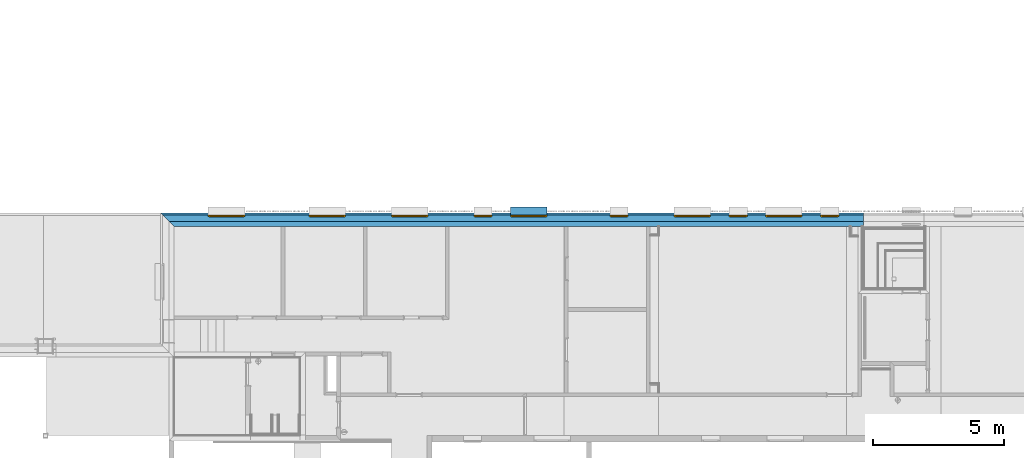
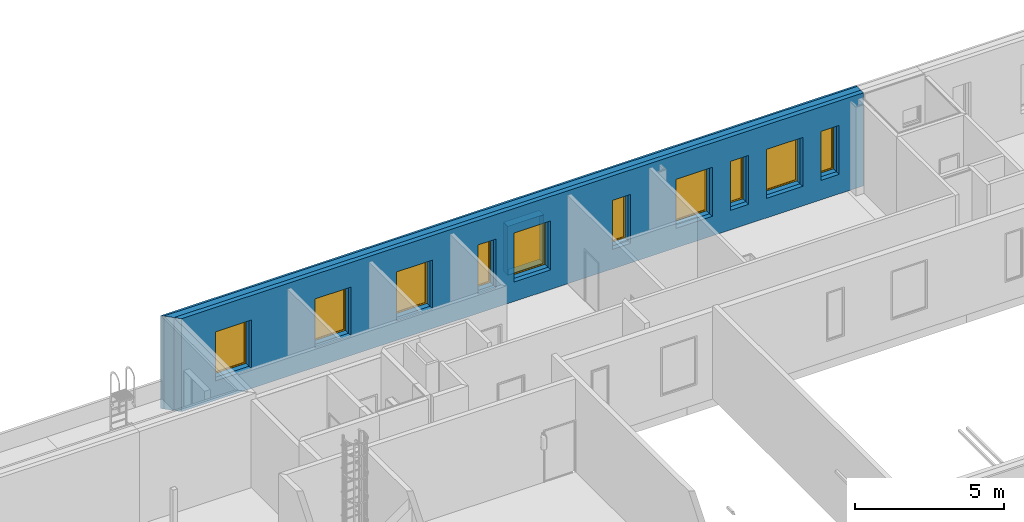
# One storey, part 23 of 100: 10 windows, 3 building element parts, 1 discrete accessory, 10 openings, 1 element without a shape of its own.
"""IFC2X3 building model written with IfcOpenShell, lengths in millimetres."""

from ifc_helpers import new_model, entity, si_unit, converted_unit, derived_unit, money_unit, direction, frame, origin_with_axes, origin_2d_with_axis, place, context, subcontext, project, spatial, polyline, rectangle, outline, extrude, open_shell, faceted_brep, surface_model, source, transform, mapped, material, type_object, element, fill, aggregate, save


model = new_model("IFC2X3")

# Units and contexts
model_context = context("Model", 3, precision=0.01, world=origin_with_axes(), true_north=direction((0.0, 1.0)))
body_context = subcontext(model_context, "Body", "Model", "MODEL_VIEW")
ifc_project = project(units=[si_unit("LENGTHUNIT", "METRE", prefix="MILLI"), si_unit("AREAUNIT", "SQUARE_METRE"), si_unit("VOLUMEUNIT", "CUBIC_METRE"), converted_unit("PLANEANGLEUNIT", "DEGREE", entity("IfcPlaneAngleMeasure", 0.0174532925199), si_unit("PLANEANGLEUNIT", "RADIAN"), dimensions=[0, 0, 0, 0, 0, 0, 0]), si_unit("SOLIDANGLEUNIT", "STERADIAN"), money_unit("EUR"), converted_unit("TIMEUNIT", "Year", entity("IfcTimeMeasure", 31556926.0), si_unit("TIMEUNIT", "SECOND"), dimensions=[0, 0, 1, 0, 0, 0, 0]), si_unit("MASSUNIT", "GRAM", prefix="KILO"), si_unit("THERMODYNAMICTEMPERATUREUNIT", "DEGREE_CELSIUS"), si_unit("LUMINOUSINTENSITYUNIT", "LUMEN"), si_unit("ENERGYUNIT", "JOULE", prefix="MEGA"), derived_unit("THERMALCONDUCTANCEUNIT", [(si_unit("POWERUNIT", "WATT"), 1), (si_unit("LENGTHUNIT", "METRE"), -1), (si_unit("THERMODYNAMICTEMPERATUREUNIT", "KELVIN"), -1)]), derived_unit("SPECIFICHEATCAPACITYUNIT", [(si_unit("ENERGYUNIT", "JOULE"), 1), (si_unit("MASSUNIT", "GRAM", prefix="KILO"), -1), (si_unit("THERMODYNAMICTEMPERATUREUNIT", "KELVIN"), -1)]), derived_unit("MASSDENSITYUNIT", [(si_unit("MASSUNIT", "GRAM", prefix="KILO"), 1), (si_unit("VOLUMEUNIT", "CUBIC_METRE"), -1)])], contexts=[model_context])

# Site, building, storey
site_placement = place(None, origin_with_axes())
site = spatial("IfcSite", under=ifc_project, at=site_placement, Name="Politse- ja Piirivalveameti ning Päästeameti ühishoone", CompositionType="ELEMENT")
building_placement = place(site_placement, origin_with_axes())
building = spatial("IfcBuilding", under=site, at=building_placement, Name="Politse- ja Piirivalveameti ning Päästeameti ühishoone", CompositionType="ELEMENT")
storey_placement = place(building_placement, frame((0.0, 0.0, 3800.0), z_axis=(0.0, 0.0, 1.0), x_axis=(1.0, 0.0, 0.0)))
storey = spatial("IfcBuildingStorey", under=building, at=storey_placement, Name="Teine korrus", CompositionType="ELEMENT", Elevation=3800.0)

# Window
window_style_1 = type_object("IfcWindowStyle", Name="Window 23", ConstructionType="NOTDEFINED", OperationType="SINGLE_PANEL", ParameterTakesPrecedence=False, Sizeable=False)
shared_shape_1 = source(origin_with_axes(), body_context, "Body", "SurfaceModel", [
    faceted_brep([(-675.0, 0.0, 1950.0), (-700.0, 0.0, 1950.0), (-700.0, -50.0, 1950.0), (-650.0, -50.0, 1950.0), (-650.0, -25.0, 1950.0), (-675.0, -25.0, 1950.0), (-675.0, 0.0, 50.0), (-700.0, 0.0, 50.0), (-700.0, -50.0, 50.0), (-650.0, -50.0, 50.0), (-650.0, -25.0, 50.0), (-675.0, -25.0, 50.0)], [[[0, 1, 2, 3, 4, 5]], [[6, 7, 1, 0]], [[1, 7, 8, 2]], [[2, 8, 9, 3]], [[4, 3, 9, 10]], [[10, 11, 5, 4]], [[5, 11, 6, 0]], [[11, 10, 9, 8, 7, 6]]]),
    faceted_brep([(650.0, -25.0, 1950.0), (650.0, -50.0, 1950.0), (700.0, -50.0, 1950.0), (700.0, 0.0, 1950.0), (675.0, 0.0, 1950.0), (675.0, -25.0, 1950.0), (650.0, -25.0, 50.0), (650.0, -50.0, 50.0), (700.0, -50.0, 50.0), (700.0, 0.0, 50.0), (675.0, 0.0, 50.0), (675.0, -25.0, 50.0)], [[[0, 1, 2, 3, 4, 5]], [[6, 7, 1, 0]], [[8, 2, 1, 7]], [[9, 3, 2, 8]], [[4, 3, 9, 10]], [[10, 11, 5, 4]], [[5, 11, 6, 0]], [[11, 10, 9, 8, 7, 6]]]),
    faceted_brep([(650.0, -25.0, 50.0), (650.0, -50.0, 50.0), (700.0, -50.0, 50.0), (700.0, 0.0, 50.0), (675.0, 0.0, 50.0), (675.0, -25.0, 50.0), (-650.0, -25.0, 50.0), (-650.0, -50.0, 50.0), (-700.0, -50.0, 50.0), (-700.0, -50.0, 0.0), (700.0, -50.0, 0.0), (700.0, 0.0, 0.0), (-675.0, 0.0, 25.0), (675.0, 0.0, 25.0), (-700.0, 0.0, 0.0), (-700.0, 0.0, 50.0), (-675.0, 0.0, 50.0), (675.0, -25.0, 25.0), (-675.0, -25.0, 25.0), (-675.0, -25.0, 50.0)], [[[0, 1, 2, 3, 4, 5]], [[6, 7, 1, 0]], [[8, 9, 10, 2, 1, 7]], [[11, 3, 2, 10]], [[12, 13, 4, 3, 11, 14, 15, 16]], [[13, 17, 5, 4]], [[5, 17, 18, 19, 6, 0]], [[19, 16, 15, 8, 7, 6]], [[15, 14, 9, 8]], [[14, 11, 10, 9]], [[12, 18, 17, 13]], [[19, 18, 12, 16]]]),
    faceted_brep([(-675.0, 0.0, 1950.0), (-700.0, 0.0, 1950.0), (-700.0, 0.0, 2000.0), (700.0, 0.0, 2000.0), (700.0, 0.0, 1950.0), (675.0, 0.0, 1950.0), (675.0, 0.0, 1975.0), (-675.0, 0.0, 1975.0), (-675.0, -25.0, 1950.0), (-650.0, -25.0, 1950.0), (-650.0, -50.0, 1950.0), (-700.0, -50.0, 1950.0), (-700.0, -50.0, 2000.0), (700.0, -50.0, 2000.0), (700.0, -50.0, 1950.0), (675.0, -25.0, 1950.0), (650.0, -50.0, 1950.0), (650.0, -25.0, 1950.0), (675.0, -25.0, 1975.0), (-675.0, -25.0, 1975.0)], [[[0, 1, 2, 3, 4, 5, 6, 7]], [[8, 9, 10, 11, 1, 0]], [[2, 1, 11, 12]], [[3, 2, 12, 13]], [[4, 3, 13, 14]], [[15, 5, 4, 14, 16, 17]], [[5, 15, 18, 6]], [[6, 18, 19, 7]], [[7, 19, 8, 0]], [[17, 9, 8, 19, 18, 15]], [[17, 16, 10, 9]], [[14, 13, 12, 11, 10, 16]]]),
    faceted_brep([(-625.0, -25.0, 1925.0), (-625.0, 25.0, 1925.0), (-675.0, 25.0, 1925.0), (-675.0, -25.0, 1925.0), (-625.0, -25.0, 75.0), (-625.0, 25.0, 75.0), (-675.0, 25.0, 75.0), (-675.0, -25.0, 75.0)], [[[0, 1, 2, 3]], [[4, 5, 1, 0]], [[1, 5, 6, 2]], [[3, 2, 6, 7]], [[0, 3, 7, 4]], [[7, 6, 5, 4]]]),
    faceted_brep([(625.0, -25.0, 75.0), (625.0, 25.0, 75.0), (675.0, 25.0, 75.0), (675.0, -25.0, 75.0), (625.0, -25.0, 1925.0), (625.0, 25.0, 1925.0), (675.0, 25.0, 1925.0), (675.0, -25.0, 1925.0)], [[[0, 1, 2, 3]], [[4, 5, 1, 0]], [[1, 5, 6, 2]], [[3, 2, 6, 7]], [[0, 3, 7, 4]], [[7, 6, 5, 4]]]),
    faceted_brep([(675.0, -25.0, 25.0), (675.0, 25.0, 25.0), (675.0, 25.0, 75.0), (675.0, -25.0, 75.0), (-675.0, -25.0, 25.0), (-675.0, 25.0, 25.0), (-675.0, 25.0, 75.0), (-625.0, 25.0, 75.0), (625.0, 25.0, 75.0), (625.0, -25.0, 75.0), (-625.0, -25.0, 75.0), (-675.0, -25.0, 75.0)], [[[0, 1, 2, 3]], [[4, 5, 1, 0]], [[1, 5, 6, 7, 8, 2]], [[3, 2, 8, 9]], [[0, 3, 9, 10, 11, 4]], [[11, 6, 5, 4]], [[10, 7, 6, 11]], [[9, 8, 7, 10]]]),
    faceted_brep([(-675.0, -25.0, 1975.0), (-675.0, 25.0, 1975.0), (-675.0, 25.0, 1925.0), (-675.0, -25.0, 1925.0), (675.0, -25.0, 1975.0), (675.0, 25.0, 1975.0), (675.0, 25.0, 1925.0), (625.0, 25.0, 1925.0), (-625.0, 25.0, 1925.0), (-625.0, -25.0, 1925.0), (625.0, -25.0, 1925.0), (675.0, -25.0, 1925.0)], [[[0, 1, 2, 3]], [[4, 5, 1, 0]], [[1, 5, 6, 7, 8, 2]], [[3, 2, 8, 9]], [[0, 3, 9, 10, 11, 4]], [[11, 6, 5, 4]], [[10, 7, 6, 11]], [[9, 8, 7, 10]]]),
    surface_model("IfcShellBasedSurfaceModel", [(-625.0, -10.0, 75.0), (625.0, -10.0, 75.0), (625.0, -10.0, 1925.0), (-625.0, -10.0, 1925.0)], [open_shell([[[0, 1, 2, 3]]])]),
    surface_model("IfcShellBasedSurfaceModel", [(-625.0, 10.0, 75.0), (-625.0, 10.0, 1925.0), (625.0, 10.0, 1925.0), (625.0, 10.0, 75.0)], [open_shell([[[0, 1, 2, 3]]])]),
])
wall_placement = place(storey_placement, frame((16900.0594071, 20999.9520832, 0.0), z_axis=(0.0, 0.0, 1.0), x_axis=(1.0, 3.83857912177e-08, 0.0)))
opening_1_placement = place(wall_placement, frame((2008.82419913, 0.0, 800.0), z_axis=(0.0, 0.0, 1.0), x_axis=(1.0, 0.0, 0.0)))
window_1_placement = place(opening_1_placement, frame((700.0, 0.0, 0.0), z_axis=(0.0, 0.0, 1.0), x_axis=(-1.0, 0.0, 0.0)))
window_1 = element("IfcWindow", 1, at=window_1_placement, inside=storey, type_object=window_style_1, Name="A-02", ObjectType="WINDOW", OverallHeight=2000.0, OverallWidth=1400.0, context=body_context, shape_type="MappedRepresentation", body=[
    mapped(shared_shape_1, transform((699.999985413, -379.99992289, 0.0))),
])

opening_2_placement = place(wall_placement, frame((5858.82419913, 0.0, 800.0), z_axis=(0.0, 0.0, 1.0), x_axis=(1.0, 0.0, 0.0)))
window_2_placement = place(opening_2_placement, frame((700.0, 0.0, 0.0), z_axis=(0.0, 0.0, 1.0), x_axis=(-1.0, 0.0, 0.0)))
window_2 = element("IfcWindow", 2, at=window_2_placement, inside=storey, type_object=window_style_1, Name="A-02", ObjectType="WINDOW", OverallHeight=2000.0, OverallWidth=1400.0, context=body_context, shape_type="MappedRepresentation", body=[
    mapped(shared_shape_1, transform((699.999985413, -379.999775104, 0.0))),
])

opening_3_placement = place(wall_placement, frame((9008.82419913, 0.0, 800.0), z_axis=(0.0, 0.0, 1.0), x_axis=(1.0, 0.0, 0.0)))
window_3_placement = place(opening_3_placement, frame((700.0, 0.0, 0.0), z_axis=(0.0, 0.0, 1.0), x_axis=(-1.0, 0.0, 0.0)))
window_3 = element("IfcWindow", 3, at=window_3_placement, inside=storey, type_object=window_style_1, Name="A-02", ObjectType="WINDOW", OverallHeight=2000.0, OverallWidth=1400.0, context=body_context, shape_type="MappedRepresentation", body=[
    mapped(shared_shape_1, transform((699.999985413, -379.999654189, 0.0))),
])

opening_6_placement = place(wall_placement, frame((19809.1249098, 0.0, 800.0), z_axis=(0.0, 0.0, 1.0), x_axis=(1.0, 0.0, 0.0)))
window_4_placement = place(opening_6_placement, frame((700.0, 0.0, 0.0), z_axis=(0.0, 0.0, 1.0), x_axis=(-1.0, 0.0, 0.0)))
window_4 = element("IfcWindow", 4, at=window_4_placement, inside=storey, type_object=window_style_1, Name="A-02", ObjectType="WINDOW", OverallHeight=2000.0, OverallWidth=1400.0, context=body_context, shape_type="MappedRepresentation", body=[
    mapped(shared_shape_1, transform((699.999985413, -379.999239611, 0.0))),
])

opening_7_placement = place(wall_placement, frame((23309.1249098, 0.0, 800.0), z_axis=(0.0, 0.0, 1.0), x_axis=(1.0, 0.0, 0.0)))
window_5_placement = place(opening_7_placement, frame((700.0, 0.0, 0.0), z_axis=(0.0, 0.0, 1.0), x_axis=(-1.0, 0.0, 0.0)))
window_5 = element("IfcWindow", 5, at=window_5_placement, inside=storey, type_object=window_style_1, Name="A-02", ObjectType="WINDOW", OverallHeight=2000.0, OverallWidth=1400.0, context=body_context, shape_type="MappedRepresentation", body=[
    mapped(shared_shape_1, transform((699.999985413, -379.999105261, 0.0))),
])

opening_9_placement = place(wall_placement, frame((13558.8241991, 0.0, 800.0), z_axis=(0.0, 0.0, 1.0), x_axis=(1.0, 0.0, 0.0)))
window_6_placement = place(opening_9_placement, frame((700.0, 0.0, 0.0), z_axis=(0.0, 0.0, 1.0), x_axis=(-1.0, 0.0, 0.0)))
window_6 = element("IfcWindow", 6, at=window_6_placement, inside=storey, type_object=window_style_1, Name="A-02", ObjectType="WINDOW", OverallHeight=2000.0, OverallWidth=1400.0, context=body_context, shape_type="MappedRepresentation", body=[
    mapped(shared_shape_1, transform((699.999985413, -379.999479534, 0.0))),
])

window_style_2 = type_object("IfcWindowStyle", Name="Window 23", ConstructionType="NOTDEFINED", OperationType="SINGLE_PANEL", ParameterTakesPrecedence=False, Sizeable=False)
shared_shape_2 = source(origin_with_axes(), body_context, "Body", "SurfaceModel", [
    faceted_brep([(-325.0, 0.0, 1950.0), (-350.0, 0.0, 1950.0), (-350.0, -50.0, 1950.0), (-300.0, -50.0, 1950.0), (-300.0, -25.0, 1950.0), (-325.0, -25.0, 1950.0), (-325.0, 0.0, 50.0), (-350.0, 0.0, 50.0), (-350.0, -50.0, 50.0), (-300.0, -50.0, 50.0), (-300.0, -25.0, 50.0), (-325.0, -25.0, 50.0)], [[[0, 1, 2, 3, 4, 5]], [[6, 7, 1, 0]], [[1, 7, 8, 2]], [[2, 8, 9, 3]], [[4, 3, 9, 10]], [[10, 11, 5, 4]], [[5, 11, 6, 0]], [[11, 10, 9, 8, 7, 6]]]),
    faceted_brep([(300.0, -25.0, 1950.0), (300.0, -50.0, 1950.0), (350.0, -50.0, 1950.0), (350.0, 0.0, 1950.0), (325.0, 0.0, 1950.0), (325.0, -25.0, 1950.0), (300.0, -25.0, 50.0), (300.0, -50.0, 50.0), (350.0, -50.0, 50.0), (350.0, 0.0, 50.0), (325.0, 0.0, 50.0), (325.0, -25.0, 50.0)], [[[0, 1, 2, 3, 4, 5]], [[6, 7, 1, 0]], [[8, 2, 1, 7]], [[9, 3, 2, 8]], [[4, 3, 9, 10]], [[10, 11, 5, 4]], [[5, 11, 6, 0]], [[11, 10, 9, 8, 7, 6]]]),
    faceted_brep([(300.0, -25.0, 50.0), (300.0, -50.0, 50.0), (350.0, -50.0, 50.0), (350.0, 0.0, 50.0), (325.0, 0.0, 50.0), (325.0, -25.0, 50.0), (-300.0, -25.0, 50.0), (-300.0, -50.0, 50.0), (-350.0, -50.0, 50.0), (-350.0, -50.0, 0.0), (350.0, -50.0, 0.0), (350.0, 0.0, 0.0), (-325.0, 0.0, 25.0), (325.0, 0.0, 25.0), (-350.0, 0.0, 0.0), (-350.0, 0.0, 50.0), (-325.0, 0.0, 50.0), (325.0, -25.0, 25.0), (-325.0, -25.0, 25.0), (-325.0, -25.0, 50.0)], [[[0, 1, 2, 3, 4, 5]], [[6, 7, 1, 0]], [[8, 9, 10, 2, 1, 7]], [[11, 3, 2, 10]], [[12, 13, 4, 3, 11, 14, 15, 16]], [[13, 17, 5, 4]], [[5, 17, 18, 19, 6, 0]], [[19, 16, 15, 8, 7, 6]], [[15, 14, 9, 8]], [[14, 11, 10, 9]], [[12, 18, 17, 13]], [[19, 18, 12, 16]]]),
    faceted_brep([(-325.0, 0.0, 1950.0), (-350.0, 0.0, 1950.0), (-350.0, 0.0, 2000.0), (350.0, 0.0, 2000.0), (350.0, 0.0, 1950.0), (325.0, 0.0, 1950.0), (325.0, 0.0, 1975.0), (-325.0, 0.0, 1975.0), (-325.0, -25.0, 1950.0), (-300.0, -25.0, 1950.0), (-300.0, -50.0, 1950.0), (-350.0, -50.0, 1950.0), (-350.0, -50.0, 2000.0), (350.0, -50.0, 2000.0), (350.0, -50.0, 1950.0), (325.0, -25.0, 1950.0), (300.0, -50.0, 1950.0), (300.0, -25.0, 1950.0), (325.0, -25.0, 1975.0), (-325.0, -25.0, 1975.0)], [[[0, 1, 2, 3, 4, 5, 6, 7]], [[8, 9, 10, 11, 1, 0]], [[2, 1, 11, 12]], [[3, 2, 12, 13]], [[4, 3, 13, 14]], [[15, 5, 4, 14, 16, 17]], [[5, 15, 18, 6]], [[6, 18, 19, 7]], [[7, 19, 8, 0]], [[17, 9, 8, 19, 18, 15]], [[17, 16, 10, 9]], [[14, 13, 12, 11, 10, 16]]]),
    faceted_brep([(-275.0, -25.0, 1925.0), (-275.0, 25.0, 1925.0), (-325.0, 25.0, 1925.0), (-325.0, -25.0, 1925.0), (-275.0, -25.0, 75.0), (-275.0, 25.0, 75.0), (-325.0, 25.0, 75.0), (-325.0, -25.0, 75.0)], [[[0, 1, 2, 3]], [[4, 5, 1, 0]], [[1, 5, 6, 2]], [[3, 2, 6, 7]], [[0, 3, 7, 4]], [[7, 6, 5, 4]]]),
    faceted_brep([(275.0, -25.0, 75.0), (275.0, 25.0, 75.0), (325.0, 25.0, 75.0), (325.0, -25.0, 75.0), (275.0, -25.0, 1925.0), (275.0, 25.0, 1925.0), (325.0, 25.0, 1925.0), (325.0, -25.0, 1925.0)], [[[0, 1, 2, 3]], [[4, 5, 1, 0]], [[1, 5, 6, 2]], [[3, 2, 6, 7]], [[0, 3, 7, 4]], [[7, 6, 5, 4]]]),
    faceted_brep([(325.0, -25.0, 25.0), (325.0, 25.0, 25.0), (325.0, 25.0, 75.0), (325.0, -25.0, 75.0), (-325.0, -25.0, 25.0), (-325.0, 25.0, 25.0), (-325.0, 25.0, 75.0), (-275.0, 25.0, 75.0), (275.0, 25.0, 75.0), (275.0, -25.0, 75.0), (-275.0, -25.0, 75.0), (-325.0, -25.0, 75.0)], [[[0, 1, 2, 3]], [[4, 5, 1, 0]], [[1, 5, 6, 7, 8, 2]], [[3, 2, 8, 9]], [[0, 3, 9, 10, 11, 4]], [[11, 6, 5, 4]], [[10, 7, 6, 11]], [[9, 8, 7, 10]]]),
    faceted_brep([(-325.0, -25.0, 1975.0), (-325.0, 25.0, 1975.0), (-325.0, 25.0, 1925.0), (-325.0, -25.0, 1925.0), (325.0, -25.0, 1975.0), (325.0, 25.0, 1975.0), (325.0, 25.0, 1925.0), (275.0, 25.0, 1925.0), (-275.0, 25.0, 1925.0), (-275.0, -25.0, 1925.0), (275.0, -25.0, 1925.0), (325.0, -25.0, 1925.0)], [[[0, 1, 2, 3]], [[4, 5, 1, 0]], [[1, 5, 6, 7, 8, 2]], [[3, 2, 8, 9]], [[0, 3, 9, 10, 11, 4]], [[11, 6, 5, 4]], [[10, 7, 6, 11]], [[9, 8, 7, 10]]]),
    surface_model("IfcShellBasedSurfaceModel", [(-275.0, -10.0, 75.0), (275.0, -10.0, 75.0), (275.0, -10.0, 1925.0), (-275.0, -10.0, 1925.0)], [open_shell([[[0, 1, 2, 3]]])]),
    surface_model("IfcShellBasedSurfaceModel", [(-275.0, 10.0, 75.0), (-275.0, 10.0, 1925.0), (275.0, 10.0, 1925.0), (275.0, 10.0, 75.0)], [open_shell([[[0, 1, 2, 3]]])]),
])
opening_4_placement = place(wall_placement, frame((17008.9942355, 0.0, 800.0), z_axis=(0.0, 0.0, 1.0), x_axis=(1.0, 0.0, 0.0)))
window_7_placement = place(opening_4_placement, frame((350.0, 0.0, 0.0), z_axis=(0.0, 0.0, 1.0), x_axis=(-1.0, 0.0, 0.0)))
window_7 = element("IfcWindow", 7, at=window_7_placement, inside=storey, type_object=window_style_2, Name="A-01", ObjectType="WINDOW", OverallHeight=2000.0, OverallWidth=700.0, context=body_context, shape_type="MappedRepresentation", body=[
    mapped(shared_shape_2, transform((349.999985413, -379.999347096, 0.0))),
])

opening_5_placement = place(wall_placement, frame((21559.1249098, 0.0, 800.0), z_axis=(0.0, 0.0, 1.0), x_axis=(1.0, 0.0, 0.0)))
window_8_placement = place(opening_5_placement, frame((350.0, 0.0, 0.0), z_axis=(0.0, 0.0, 1.0), x_axis=(-1.0, 0.0, 0.0)))
window_8 = element("IfcWindow", 8, at=window_8_placement, inside=storey, type_object=window_style_2, Name="A-01", ObjectType="WINDOW", OverallHeight=2000.0, OverallWidth=700.0, context=body_context, shape_type="MappedRepresentation", body=[
    mapped(shared_shape_2, transform((349.999985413, -379.999172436, 0.0))),
])

opening_8_placement = place(wall_placement, frame((11808.8241991, 0.0, 800.0), z_axis=(0.0, 0.0, 1.0), x_axis=(1.0, 0.0, 0.0)))
window_9_placement = place(opening_8_placement, frame((350.0, 0.0, 0.0), z_axis=(0.0, 0.0, 1.0), x_axis=(-1.0, 0.0, 0.0)))
window_9 = element("IfcWindow", 9, at=window_9_placement, inside=storey, type_object=window_style_2, Name="A-01", ObjectType="WINDOW", OverallHeight=2000.0, OverallWidth=700.0, context=body_context, shape_type="MappedRepresentation", body=[
    mapped(shared_shape_2, transform((349.999985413, -379.999546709, 0.0))),
])

opening_10_placement = place(wall_placement, frame((25059.1249098, 0.0, 800.0), z_axis=(0.0, 0.0, 1.0), x_axis=(1.0, 0.0, 0.0)))
window_10_placement = place(opening_10_placement, frame((350.0, 0.0, 0.0), z_axis=(0.0, 0.0, 1.0), x_axis=(-1.0, 0.0, 0.0)))
window_10 = element("IfcWindow", 10, at=window_10_placement, inside=storey, type_object=window_style_2, Name="A-01", ObjectType="WINDOW", OverallHeight=2000.0, OverallWidth=700.0, context=body_context, shape_type="MappedRepresentation", body=[
    mapped(shared_shape_2, transform((349.999985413, -379.999038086, 0.0))),
])

# Discrete accessory
ifc_material_1 = material(Name="SV-01_Krohv - Kips")
discrete_accessory_type = type_object("IfcDiscreteAccessoryType", Name="Architrave 01 23")
shared_shape_3 = source(origin_with_axes(), body_context, "Body", "Brep", [
    faceted_brep([(700.0, 0.0, -10.0), (700.0, -300.182356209, -10.0), (-700.0, -300.182356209, -10.0), (-700.0, 0.0, -10.0), (690.0, 0.0, 0.0), (690.0, -300.182356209, 0.0), (-690.0, -300.182356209, 0.0), (-690.0, 0.0, 0.0)], [[[0, 1, 2, 3]], [[4, 5, 1, 0]], [[1, 5, 6, 2]], [[3, 2, 6, 7]], [[0, 3, 7, 4]], [[7, 6, 5, 4]]]),
    faceted_brep([(-700.0, 0.0, -10.0), (-700.0, -300.182356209, -10.0), (-700.0, -300.182356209, 1990.0), (-700.0, 0.0, 1990.0), (-690.0, 0.0, 0.0), (-690.0, -300.182356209, 0.0), (-690.0, -300.182356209, 1980.0), (-690.0, 0.0, 1980.0)], [[[0, 1, 2, 3]], [[4, 5, 1, 0]], [[1, 5, 6, 2]], [[3, 2, 6, 7]], [[0, 3, 7, 4]], [[7, 6, 5, 4]]]),
    faceted_brep([(-700.0, 0.0, 1990.0), (-700.0, -300.182356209, 1990.0), (700.0, -300.182356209, 1990.0), (700.0, 0.0, 1990.0), (-690.0, 0.0, 1980.0), (-690.0, -300.182356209, 1980.0), (690.0, -300.182356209, 1980.0), (690.0, 0.0, 1980.0)], [[[0, 1, 2, 3]], [[4, 5, 1, 0]], [[1, 5, 6, 2]], [[3, 2, 6, 7]], [[0, 3, 7, 4]], [[7, 6, 5, 4]]]),
    faceted_brep([(700.0, 0.0, 1990.0), (700.0, -300.182356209, 1990.0), (700.0, -300.182356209, -10.0), (700.0, 0.0, -10.0), (690.0, 0.0, 1980.0), (690.0, -300.182356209, 1980.0), (690.0, -300.182356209, 0.0), (690.0, 0.0, 0.0)], [[[0, 1, 2, 3]], [[4, 5, 1, 0]], [[1, 5, 6, 2]], [[3, 2, 6, 7]], [[0, 3, 7, 4]], [[7, 6, 5, 4]]]),
])
discrete_accessory_placement = place(storey_placement, frame((30458.8836062, 21429.9520832, 810.0), z_axis=(0.0, 0.0, 1.0), x_axis=(-1.0, 0.0, 0.0)))
element("IfcDiscreteAccessory", 11, at=discrete_accessory_placement, inside=storey, type_object=discrete_accessory_type, material=ifc_material_1, Name="AKNARAAM 01", context=body_context, shape_type="MappedRepresentation", body=[
    mapped(shared_shape_3, transform((0.0, 0.0, 0.0))),
])

# Wall, opening
wall_type = type_object("IfcWallType", Name="VS-01_välissein 510", PredefinedType="NOTDEFINED")
wall = element("IfcWall", 12, at=wall_placement, inside=storey, type_object=wall_type, Name="VS-01")
opening_1 = element("IfcOpeningElement", 13, at=opening_1_placement, cuts=wall, Name="A-02", context=body_context, shape_type="SweptSolid", body=[
    extrude(rectangle(XDim=1400.0, YDim=2000.0, at=origin_2d_with_axis()), frame((1.65058899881e-05, 429.99992289, 1000.0), z_axis=(3.83857912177e-08, 1.0, 0.0), x_axis=(-1.0, 3.83857913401e-08, 0.0)), (0.0, 0.0, -1.0), 940.0),
    extrude(rectangle(XDim=1400.0, YDim=2000.0, at=origin_2d_with_axis()), frame((1.65058899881e-05, 429.99992289, 1000.0), z_axis=(-3.83857912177e-08, -1.0, 0.0), x_axis=(-1.0, 3.83857913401e-08, 0.0)), (0.0, 0.0, -1.0), 590.0),
])

fill(opening_1, window_1)

# Opening
opening_2 = element("IfcOpeningElement", 14, at=opening_2_placement, cuts=wall, Name="A-02", context=body_context, shape_type="SweptSolid", body=[
    extrude(rectangle(XDim=1400.0, YDim=2000.0, at=origin_2d_with_axis()), frame((1.65058828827e-05, 429.999775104, 1000.0), z_axis=(3.83857912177e-08, 1.0, 0.0), x_axis=(-1.0, 3.83857913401e-08, 0.0)), (0.0, 0.0, -1.0), 940.0),
    extrude(rectangle(XDim=1400.0, YDim=2000.0, at=origin_2d_with_axis()), frame((1.65058828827e-05, 429.999775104, 1000.0), z_axis=(-3.83857912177e-08, -1.0, 0.0), x_axis=(-1.0, 3.83857913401e-08, 0.0)), (0.0, 0.0, -1.0), 590.0),
])

fill(opening_2, window_2)

opening_3 = element("IfcOpeningElement", 15, at=opening_3_placement, cuts=wall, Name="A-02", context=body_context, shape_type="SweptSolid", body=[
    extrude(rectangle(XDim=1400.0, YDim=2000.0, at=origin_2d_with_axis()), frame((1.65058864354e-05, 429.999654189, 1000.0), z_axis=(3.83857912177e-08, 1.0, 0.0), x_axis=(-1.0, 3.83857913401e-08, 0.0)), (0.0, 0.0, -1.0), 940.0),
    extrude(rectangle(XDim=1400.0, YDim=2000.0, at=origin_2d_with_axis()), frame((1.65058864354e-05, 429.999654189, 1000.0), z_axis=(-3.83857912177e-08, -1.0, 0.0), x_axis=(-1.0, 3.83857913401e-08, 0.0)), (0.0, 0.0, -1.0), 590.0),
])

fill(opening_3, window_3)

opening_4 = element("IfcOpeningElement", 16, at=opening_4_placement, cuts=wall, Name="A-01", context=body_context, shape_type="SweptSolid", body=[
    extrude(rectangle(XDim=700.0, YDim=2000.0, at=origin_2d_with_axis()), frame((1.65058722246e-05, 429.999347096, 1000.0), z_axis=(3.83857912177e-08, 1.0, 0.0), x_axis=(-1.0, 3.83857913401e-08, 0.0)), (0.0, 0.0, -1.0), 940.0),
    extrude(rectangle(XDim=700.0, YDim=2000.0, at=origin_2d_with_axis()), frame((1.65058722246e-05, 429.999347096, 1000.0), z_axis=(-3.83857912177e-08, -1.0, 0.0), x_axis=(-1.0, 3.83857913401e-08, 0.0)), (0.0, 0.0, -1.0), 590.0),
])

fill(opening_4, window_7)

opening_5 = element("IfcOpeningElement", 17, at=opening_5_placement, cuts=wall, Name="A-01", context=body_context, shape_type="SweptSolid", body=[
    extrude(rectangle(XDim=700.0, YDim=2000.0, at=origin_2d_with_axis()), frame((1.65058722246e-05, 429.999172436, 1000.0), z_axis=(3.83857912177e-08, 1.0, 0.0), x_axis=(-1.0, 3.83857913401e-08, 0.0)), (0.0, 0.0, -1.0), 940.0),
    extrude(rectangle(XDim=700.0, YDim=2000.0, at=origin_2d_with_axis()), frame((1.65058722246e-05, 429.999172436, 1000.0), z_axis=(-3.83857912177e-08, -1.0, 0.0), x_axis=(-1.0, 3.83857913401e-08, 0.0)), (0.0, 0.0, -1.0), 590.0),
])

fill(opening_5, window_8)

opening_6 = element("IfcOpeningElement", 18, at=opening_6_placement, cuts=wall, Name="A-02", context=body_context, shape_type="SweptSolid", body=[
    extrude(rectangle(XDim=1400.0, YDim=2000.0, at=origin_2d_with_axis()), frame((1.65058722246e-05, 429.999239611, 1000.0), z_axis=(3.83857912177e-08, 1.0, 0.0), x_axis=(-1.0, 3.83857913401e-08, 0.0)), (0.0, 0.0, -1.0), 940.0),
    extrude(rectangle(XDim=1400.0, YDim=2000.0, at=origin_2d_with_axis()), frame((1.65058722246e-05, 429.999239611, 1000.0), z_axis=(-3.83857912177e-08, -1.0, 0.0), x_axis=(-1.0, 3.83857913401e-08, 0.0)), (0.0, 0.0, -1.0), 590.0),
])

fill(opening_6, window_4)

opening_7 = element("IfcOpeningElement", 19, at=opening_7_placement, cuts=wall, Name="A-02", context=body_context, shape_type="SweptSolid", body=[
    extrude(rectangle(XDim=1400.0, YDim=2000.0, at=origin_2d_with_axis()), frame((1.65058651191e-05, 429.999105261, 1000.0), z_axis=(3.83857912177e-08, 1.0, 0.0), x_axis=(-1.0, 3.83857913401e-08, 0.0)), (0.0, 0.0, -1.0), 940.0),
    extrude(rectangle(XDim=1400.0, YDim=2000.0, at=origin_2d_with_axis()), frame((1.65058651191e-05, 429.999105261, 1000.0), z_axis=(-3.83857912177e-08, -1.0, 0.0), x_axis=(-1.0, 3.83857913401e-08, 0.0)), (0.0, 0.0, -1.0), 590.0),
])

fill(opening_7, window_5)

opening_8 = element("IfcOpeningElement", 20, at=opening_8_placement, cuts=wall, Name="A-01", context=body_context, shape_type="SweptSolid", body=[
    extrude(rectangle(XDim=700.0, YDim=2000.0, at=origin_2d_with_axis()), frame((1.650587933e-05, 429.999546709, 1000.0), z_axis=(3.83857912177e-08, 1.0, 0.0), x_axis=(-1.0, 3.83857913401e-08, 0.0)), (0.0, 0.0, -1.0), 940.0),
    extrude(rectangle(XDim=700.0, YDim=2000.0, at=origin_2d_with_axis()), frame((1.650587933e-05, 429.999546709, 1000.0), z_axis=(-3.83857912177e-08, -1.0, 0.0), x_axis=(-1.0, 3.83857913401e-08, 0.0)), (0.0, 0.0, -1.0), 590.0),
])

fill(opening_8, window_9)

opening_9 = element("IfcOpeningElement", 21, at=opening_9_placement, cuts=wall, Name="A-02", context=body_context, shape_type="SweptSolid", body=[
    extrude(rectangle(XDim=1400.0, YDim=2000.0, at=origin_2d_with_axis()), frame((1.65058828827e-05, 429.999479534, 1000.0), z_axis=(3.83857912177e-08, 1.0, 0.0), x_axis=(-1.0, 3.83857913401e-08, 0.0)), (0.0, 0.0, -1.0), 940.0),
    extrude(rectangle(XDim=1400.0, YDim=2000.0, at=origin_2d_with_axis()), frame((1.65058828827e-05, 429.999479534, 1000.0), z_axis=(-3.83857912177e-08, -1.0, 0.0), x_axis=(-1.0, 3.83857913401e-08, 0.0)), (0.0, 0.0, -1.0), 590.0),
])

fill(opening_9, window_6)

opening_10 = element("IfcOpeningElement", 22, at=opening_10_placement, cuts=wall, Name="A-01", context=body_context, shape_type="SweptSolid", body=[
    extrude(rectangle(XDim=700.0, YDim=2000.0, at=origin_2d_with_axis()), frame((1.65058651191e-05, 429.999038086, 1000.0), z_axis=(3.83857912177e-08, 1.0, 0.0), x_axis=(-1.0, 3.83857913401e-08, 0.0)), (0.0, 0.0, -1.0), 940.0),
    extrude(rectangle(XDim=700.0, YDim=2000.0, at=origin_2d_with_axis()), frame((1.65058651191e-05, 429.999038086, 1000.0), z_axis=(-3.83857912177e-08, -1.0, 0.0), x_axis=(-1.0, 3.83857913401e-08, 0.0)), (0.0, 0.0, -1.0), 590.0),
])

fill(opening_10, window_10)

# Building element part
ifc_material_2 = material(Name="KON-04_Betoon - Konstuktsioon")
building_element_part_1_placement = place(wall_placement, origin_with_axes())
building_element_part_1 = element("IfcBuildingElementPart", 23, at=building_element_part_1_placement, material=ifc_material_2, Name="KON-04_Betoon - Konstuktsioon", context=body_context, shape_type="SweptSolid", body=[
    extrude(outline(polyline([(0.0, 0.0), (26348.3522999, 0.0), (26348.3523388, 180.0), (-180.007193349, 180.0), (0.0, 0.0)])), origin_with_axes(), (0.0, 0.0, 1.0), 3800.0),
])

ifc_material_3 = material(Name="SOJ-06_Soojustus - Plastik Kõva")
building_element_part_2_placement = place(wall_placement, origin_with_axes())
building_element_part_2 = element("IfcBuildingElementPart", 24, at=building_element_part_2_placement, material=ifc_material_3, Name="SOJ-06_Soojustus - Plastik Kõva", context=body_context, shape_type="SweptSolid", body=[
    extrude(outline(polyline([(-180.007193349, 180.0), (26348.3523388, 180.0), (26348.3523927, 430.0), (-430.017184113, 430.0), (-180.007193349, 180.0)])), origin_with_axes(), (0.0, 0.0, 1.0), 3800.0),
])

building_element_part_3_placement = place(wall_placement, origin_with_axes())
building_element_part_3 = element("IfcBuildingElementPart", 25, at=building_element_part_3_placement, material=ifc_material_2, Name="KON-04_Betoon - Konstuktsioon", context=body_context, shape_type="SweptSolid", body=[
    extrude(outline(polyline([(-430.017184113, 430.0), (26348.3523927, 430.0), (26348.35241, 510.0), (-510.020381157, 510.0), (-430.017184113, 430.0)])), origin_with_axes(), (0.0, 0.0, 1.0), 3800.0),
])

aggregate(wall, [building_element_part_1, building_element_part_2, building_element_part_3])

save(model, "model.ifc")
